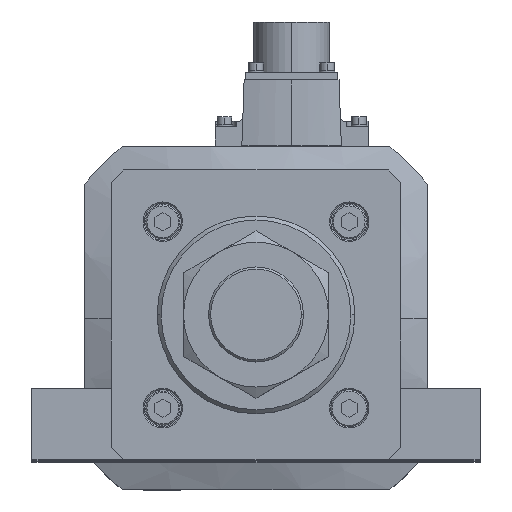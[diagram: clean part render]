
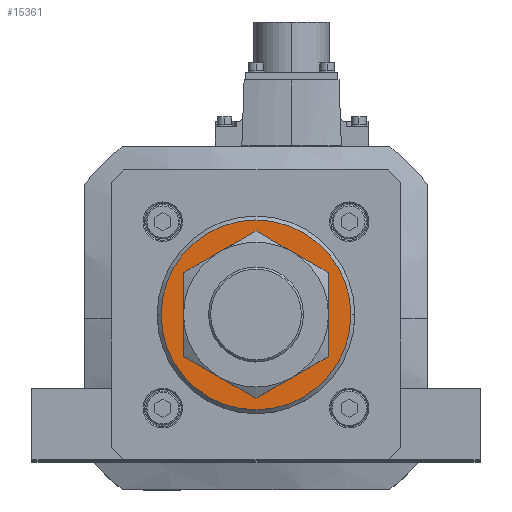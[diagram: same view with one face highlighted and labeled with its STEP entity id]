
A CAD part, top view. The second image highlights one B-rep face of the part: STEP entity #15361.
In plain terms, the highlighted planar face has unit normal (0, 0, 1).
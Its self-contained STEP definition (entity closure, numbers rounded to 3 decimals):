
#597 = DIRECTION ( 'NONE',  ( 1., 0., 0. ) ) ;
#782 = EDGE_CURVE ( 'NONE', #12130, #34289, #6276, .T. ) ;
#1366 = EDGE_CURVE ( 'NONE', #11616, #31965, #3477, .T. ) ;
#3477 = CIRCLE ( 'NONE', #15893, 23. ) ;
#3638 = CARTESIAN_POINT ( 'NONE',  ( 0., 0., 446. ) ) ;
#3671 = CARTESIAN_POINT ( 'NONE',  ( 0., 0., 446. ) ) ;
#5842 = CARTESIAN_POINT ( 'NONE',  ( 23., 0., 446. ) ) ;
#6276 = CIRCLE ( 'NONE', #9528, 36. ) ;
#6479 = CARTESIAN_POINT ( 'NONE',  ( 0., 0., 446. ) ) ;
#6578 = DIRECTION ( 'NONE',  ( 0., 0., -1. ) ) ;
#6617 = EDGE_CURVE ( 'NONE', #31965, #11616, #27766, .T. ) ;
#6828 = AXIS2_PLACEMENT_3D ( 'NONE', #12270, #14843, #9351 ) ;
#7993 = ORIENTED_EDGE ( 'NONE', *, *, #6617, .T. ) ;
#8601 = DIRECTION ( 'NONE',  ( 1., 0., 0. ) ) ;
#9268 = DIRECTION ( 'NONE',  ( 1., 0., 0. ) ) ;
#9349 = ORIENTED_EDGE ( 'NONE', *, *, #17873, .T. ) ;
#9351 = DIRECTION ( 'NONE',  ( 1., 0., 0. ) ) ;
#9393 = FACE_OUTER_BOUND ( 'NONE', #11972, .T. ) ;
#9488 = DIRECTION ( 'NONE',  ( 1., 0., 0. ) ) ;
#9528 = AXIS2_PLACEMENT_3D ( 'NONE', #3671, #32520, #597 ) ;
#11581 = EDGE_LOOP ( 'NONE', ( #7993, #23996 ) ) ;
#11616 = VERTEX_POINT ( 'NONE', #30137 ) ;
#11892 = PLANE ( 'NONE',  #6828 ) ;
#11972 = EDGE_LOOP ( 'NONE', ( #16082, #9349 ) ) ;
#12130 = VERTEX_POINT ( 'NONE', #37815 ) ;
#12270 = CARTESIAN_POINT ( 'NONE',  ( 0., 0., 446. ) ) ;
#14843 = DIRECTION ( 'NONE',  ( 0., 0., 1. ) ) ;
#15361 = ADVANCED_FACE ( 'NONE', ( #30913, #9393 ), #11892, .T. ) ;
#15893 = AXIS2_PLACEMENT_3D ( 'NONE', #28542, #34364, #8601 ) ;
#16082 = ORIENTED_EDGE ( 'NONE', *, *, #782, .T. ) ;
#17873 = EDGE_CURVE ( 'NONE', #34289, #12130, #37039, .T. ) ;
#23996 = ORIENTED_EDGE ( 'NONE', *, *, #1366, .T. ) ;
#24324 = AXIS2_PLACEMENT_3D ( 'NONE', #3638, #6578, #9488 ) ;
#27164 = DIRECTION ( 'NONE',  ( 0., 0., 1. ) ) ;
#27766 = CIRCLE ( 'NONE', #24324, 23. ) ;
#28542 = CARTESIAN_POINT ( 'NONE',  ( 0., 0., 446. ) ) ;
#28964 = CARTESIAN_POINT ( 'NONE',  ( 36., 0., 446. ) ) ;
#30137 = CARTESIAN_POINT ( 'NONE',  ( -23., 0., 446. ) ) ;
#30913 = FACE_BOUND ( 'NONE', #11581, .T. ) ;
#31965 = VERTEX_POINT ( 'NONE', #5842 ) ;
#32520 = DIRECTION ( 'NONE',  ( 0., 0., 1. ) ) ;
#34289 = VERTEX_POINT ( 'NONE', #28964 ) ;
#34364 = DIRECTION ( 'NONE',  ( 0., 0., -1. ) ) ;
#36484 = AXIS2_PLACEMENT_3D ( 'NONE', #6479, #27164, #9268 ) ;
#37039 = CIRCLE ( 'NONE', #36484, 36. ) ;
#37815 = CARTESIAN_POINT ( 'NONE',  ( -36., 0., 446. ) ) ;
